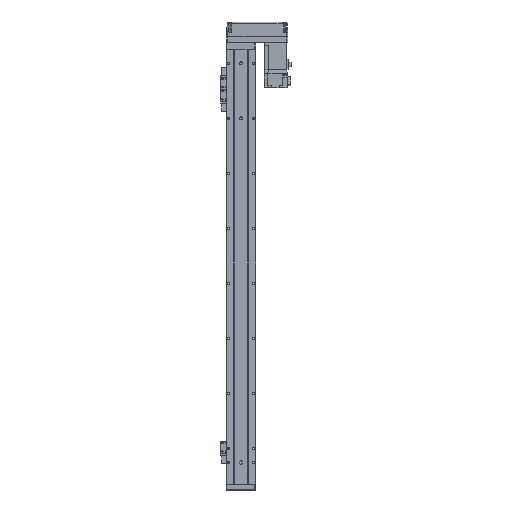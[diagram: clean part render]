
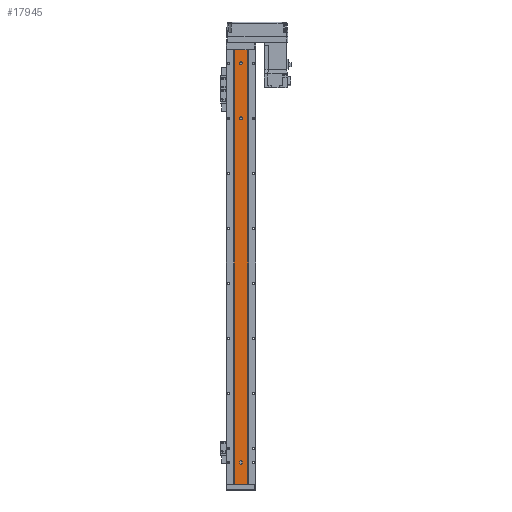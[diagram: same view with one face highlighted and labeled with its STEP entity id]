
A CAD part, front view. The second image highlights one B-rep face of the part: STEP entity #17945.
In plain terms, the highlighted planar face has unit normal (0, -1, 0).
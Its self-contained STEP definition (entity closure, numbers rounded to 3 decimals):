
#406 = AXIS2_PLACEMENT_3D ( 'NONE', #31161, #16316, #30646 ) ;
#613 = CIRCLE ( 'NONE', #8845, 2.5 ) ;
#1178 = DIRECTION ( 'NONE',  ( 1., 0., 0. ) ) ;
#1281 = CARTESIAN_POINT ( 'NONE',  ( 2.5, 1.5, -25. ) ) ;
#2513 = ORIENTED_EDGE ( 'NONE', *, *, #23110, .F. ) ;
#2934 = DIRECTION ( 'NONE',  ( 0., 0., -1. ) ) ;
#3318 = EDGE_CURVE ( 'NONE', #8580, #22810, #20066, .T. ) ;
#4043 = EDGE_CURVE ( 'NONE', #8285, #29783, #12454, .T. ) ;
#4826 = DIRECTION ( 'NONE',  ( 1., 0., 0. ) ) ;
#4930 = PLANE ( 'NONE',  #21509 ) ;
#6613 = ORIENTED_EDGE ( 'NONE', *, *, #37709, .F. ) ;
#6870 = ORIENTED_EDGE ( 'NONE', *, *, #26886, .F. ) ;
#6932 = EDGE_CURVE ( 'NONE', #10513, #24929, #35752, .T. ) ;
#6987 = VERTEX_POINT ( 'NONE', #35994 ) ;
#7303 = VERTEX_POINT ( 'NONE', #37126 ) ;
#7413 = CARTESIAN_POINT ( 'NONE',  ( 12.293, 1.5, -790. ) ) ;
#7452 = VECTOR ( 'NONE', #16029, 1000. ) ;
#7982 = CARTESIAN_POINT ( 'NONE',  ( 2.5, 1.5, -749. ) ) ;
#8180 = LINE ( 'NONE', #27739, #19323 ) ;
#8285 = VERTEX_POINT ( 'NONE', #33048 ) ;
#8580 = VERTEX_POINT ( 'NONE', #1281 ) ;
#8758 = DIRECTION ( 'NONE',  ( 0., -1., 0. ) ) ;
#8845 = AXIS2_PLACEMENT_3D ( 'NONE', #11498, #8758, #23699 ) ;
#9127 = VECTOR ( 'NONE', #19231, 1000. ) ;
#9308 = LINE ( 'NONE', #24388, #30246 ) ;
#10006 = CARTESIAN_POINT ( 'NONE',  ( 12.293, 1.5, -790. ) ) ;
#10074 = LINE ( 'NONE', #25172, #9127 ) ;
#10465 = EDGE_CURVE ( 'NONE', #29783, #8285, #10893, .T. ) ;
#10513 = VERTEX_POINT ( 'NONE', #14336 ) ;
#10738 = EDGE_CURVE ( 'NONE', #33948, #28357, #9308, .T. ) ;
#10893 = CIRCLE ( 'NONE', #35579, 2.5 ) ;
#11033 = ORIENTED_EDGE ( 'NONE', *, *, #18937, .F. ) ;
#11204 = DIRECTION ( 'NONE',  ( 1., 0., 0. ) ) ;
#11306 = EDGE_CURVE ( 'NONE', #33948, #29042, #30218, .T. ) ;
#11498 = CARTESIAN_POINT ( 'NONE',  ( 0., 1.5, -25. ) ) ;
#11681 = CARTESIAN_POINT ( 'NONE',  ( 2.5, 1.5, -125. ) ) ;
#12454 = CIRCLE ( 'NONE', #37495, 2.5 ) ;
#12975 = DIRECTION ( 'NONE',  ( 0., -1., 0. ) ) ;
#14336 = CARTESIAN_POINT ( 'NONE',  ( -2.5, 1.5, -749. ) ) ;
#14626 = EDGE_CURVE ( 'NONE', #29042, #6987, #25654, .T. ) ;
#14855 = ORIENTED_EDGE ( 'NONE', *, *, #4043, .F. ) ;
#16029 = DIRECTION ( 'NONE',  ( 1., 0., 0. ) ) ;
#16316 = DIRECTION ( 'NONE',  ( 0., -1., 0. ) ) ;
#17292 = ORIENTED_EDGE ( 'NONE', *, *, #10465, .F. ) ;
#17555 = FACE_OUTER_BOUND ( 'NONE', #23558, .T. ) ;
#17945 = ADVANCED_FACE ( 'NONE', ( #38428, #18928, #19431, #17555 ), #4930, .T. ) ;
#18088 = AXIS2_PLACEMENT_3D ( 'NONE', #22465, #22597, #4826 ) ;
#18750 = ORIENTED_EDGE ( 'NONE', *, *, #14626, .T. ) ;
#18817 = EDGE_CURVE ( 'NONE', #28357, #6987, #10074, .T. ) ;
#18928 = FACE_BOUND ( 'NONE', #36746, .T. ) ;
#18937 = EDGE_CURVE ( 'NONE', #7303, #30494, #8180, .T. ) ;
#19231 = DIRECTION ( 'NONE',  ( 1., 0., 0. ) ) ;
#19252 = CARTESIAN_POINT ( 'NONE',  ( -12.293, 1.5, 0. ) ) ;
#19323 = VECTOR ( 'NONE', #33657, 1000. ) ;
#19431 = FACE_BOUND ( 'NONE', #33566, .T. ) ;
#20066 = CIRCLE ( 'NONE', #31322, 2.5 ) ;
#21100 = DIRECTION ( 'NONE',  ( 0., -1., 0. ) ) ;
#21232 = CIRCLE ( 'NONE', #18088, 2.5 ) ;
#21399 = CARTESIAN_POINT ( 'NONE',  ( -12.293, 1.5, -790. ) ) ;
#21509 = AXIS2_PLACEMENT_3D ( 'NONE', #32805, #21100, #27267 ) ;
#21555 = DIRECTION ( 'NONE',  ( 0., -1., 0. ) ) ;
#22465 = CARTESIAN_POINT ( 'NONE',  ( 0., 1.5, -749. ) ) ;
#22597 = DIRECTION ( 'NONE',  ( 0., -1., 0. ) ) ;
#22810 = VERTEX_POINT ( 'NONE', #29650 ) ;
#23110 = EDGE_CURVE ( 'NONE', #30494, #10513, #21232, .T. ) ;
#23558 = EDGE_LOOP ( 'NONE', ( #30407, #31414, #31931, #18750 ) ) ;
#23699 = DIRECTION ( 'NONE',  ( 1., 0., 0. ) ) ;
#24388 = CARTESIAN_POINT ( 'NONE',  ( -12.293, 1.5, -790. ) ) ;
#24929 = VERTEX_POINT ( 'NONE', #26781 ) ;
#25172 = CARTESIAN_POINT ( 'NONE',  ( 12.293, 1.5, 0. ) ) ;
#25654 = LINE ( 'NONE', #10006, #34470 ) ;
#26781 = CARTESIAN_POINT ( 'NONE',  ( -2.5, 1.5, -751. ) ) ;
#26886 = EDGE_CURVE ( 'NONE', #24929, #7303, #32729, .T. ) ;
#26967 = CARTESIAN_POINT ( 'NONE',  ( -2.5, 1.5, -790. ) ) ;
#27112 = EDGE_LOOP ( 'NONE', ( #6870, #37349, #2513, #11033 ) ) ;
#27267 = DIRECTION ( 'NONE',  ( 1., 0., 0. ) ) ;
#27429 = ORIENTED_EDGE ( 'NONE', *, *, #3318, .F. ) ;
#27449 = DIRECTION ( 'NONE',  ( 1., 0., 0. ) ) ;
#27739 = CARTESIAN_POINT ( 'NONE',  ( 2.5, 1.5, -790. ) ) ;
#28357 = VERTEX_POINT ( 'NONE', #19252 ) ;
#29042 = VERTEX_POINT ( 'NONE', #7413 ) ;
#29539 = DIRECTION ( 'NONE',  ( 0., -1., 0. ) ) ;
#29650 = CARTESIAN_POINT ( 'NONE',  ( -2.5, 1.5, -25. ) ) ;
#29783 = VERTEX_POINT ( 'NONE', #11681 ) ;
#30197 = DIRECTION ( 'NONE',  ( 0., 0., 1. ) ) ;
#30218 = LINE ( 'NONE', #36145, #7452 ) ;
#30246 = VECTOR ( 'NONE', #30197, 1000. ) ;
#30407 = ORIENTED_EDGE ( 'NONE', *, *, #18817, .F. ) ;
#30494 = VERTEX_POINT ( 'NONE', #7982 ) ;
#30530 = CARTESIAN_POINT ( 'NONE',  ( 0., 1.5, -25. ) ) ;
#30646 = DIRECTION ( 'NONE',  ( 1., 0., 0. ) ) ;
#30696 = VECTOR ( 'NONE', #2934, 1000. ) ;
#30797 = DIRECTION ( 'NONE',  ( 0., 0., 1. ) ) ;
#31023 = CARTESIAN_POINT ( 'NONE',  ( 0., 1.5, -125. ) ) ;
#31161 = CARTESIAN_POINT ( 'NONE',  ( 0., 1.5, -751. ) ) ;
#31322 = AXIS2_PLACEMENT_3D ( 'NONE', #30530, #21555, #27449 ) ;
#31414 = ORIENTED_EDGE ( 'NONE', *, *, #10738, .F. ) ;
#31931 = ORIENTED_EDGE ( 'NONE', *, *, #11306, .T. ) ;
#32729 = CIRCLE ( 'NONE', #406, 2.5 ) ;
#32805 = CARTESIAN_POINT ( 'NONE',  ( 12.293, 1.5, -790. ) ) ;
#33048 = CARTESIAN_POINT ( 'NONE',  ( -2.5, 1.5, -125. ) ) ;
#33566 = EDGE_LOOP ( 'NONE', ( #27429, #6613 ) ) ;
#33657 = DIRECTION ( 'NONE',  ( 0., 0., 1. ) ) ;
#33948 = VERTEX_POINT ( 'NONE', #21399 ) ;
#34470 = VECTOR ( 'NONE', #30797, 1000. ) ;
#35579 = AXIS2_PLACEMENT_3D ( 'NONE', #37916, #29539, #11204 ) ;
#35752 = LINE ( 'NONE', #26967, #30696 ) ;
#35994 = CARTESIAN_POINT ( 'NONE',  ( 12.293, 1.5, 0. ) ) ;
#36145 = CARTESIAN_POINT ( 'NONE',  ( 12.293, 1.5, -790. ) ) ;
#36746 = EDGE_LOOP ( 'NONE', ( #17292, #14855 ) ) ;
#37126 = CARTESIAN_POINT ( 'NONE',  ( 2.5, 1.5, -751. ) ) ;
#37349 = ORIENTED_EDGE ( 'NONE', *, *, #6932, .F. ) ;
#37495 = AXIS2_PLACEMENT_3D ( 'NONE', #31023, #12975, #1178 ) ;
#37709 = EDGE_CURVE ( 'NONE', #22810, #8580, #613, .T. ) ;
#37916 = CARTESIAN_POINT ( 'NONE',  ( 0., 1.5, -125. ) ) ;
#38428 = FACE_BOUND ( 'NONE', #27112, .T. ) ;
